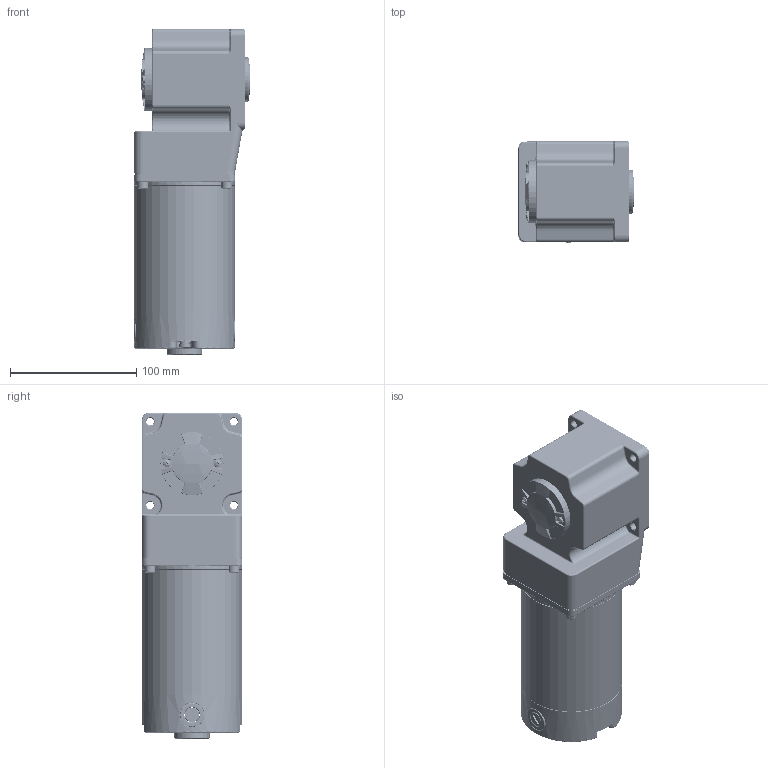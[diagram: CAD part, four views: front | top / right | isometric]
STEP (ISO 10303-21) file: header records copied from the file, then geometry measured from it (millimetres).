
FILE_DESCRIPTION (( 'STEP AP214' ), '1' );
FILE_NAME ('80-99»ú¿Ç-RC.STEP', '2021-07-23T07:51:27', ( '' ), ( '' ), 'SwSTEP 2.0', 'SolidWorks 2021', '' );
FILE_SCHEMA (( 'AUTOMOTIVE_DESIGN' ));
Length unit declared in the file: millimetre
Products named in the file (8): LUDING_1_1; TANDIAN_1_1; 80-99儂褲-RC; HOUGAI-80-1_1_1; 4RRRRRT_1; JIKEI-80_1_1_1_1; PENGDIAN_1_1; QIANGAI-80_1_1_1
Assembly tree (10 placements, depth 2):
  80-99儂褲-RC
    LUDING_1_1  x2
    TANDIAN_1_1  x2
    QIANGAI-80_1_1_1
    HOUGAI-80-1_1_1
    PENGDIAN_1_1  x2
    JIKEI-80_1_1_1_1
    4RRRRRT_1
Bounding box: 91.5 x 80 x 258.5 mm (x, y, z)
Volume: 521601.4 mm3; surface area: 220849.1 mm2
Topology: 27 solids, 27 shells, 4036 faces, 9480 edges, 5441 vertices
Faces by surface type: cone 1503, cylinder 1234, bspline 763, plane 525, torus 11
Entity records: 155167 total; most frequent: CARTESIAN_POINT 69373, ORIENTED_EDGE 18366, DIRECTION 17469, EDGE_CURVE 9183, AXIS2_PLACEMENT_3D 7062, VERTEX_POINT 5340, EDGE_LOOP 4113, ADVANCED_FACE 3972
